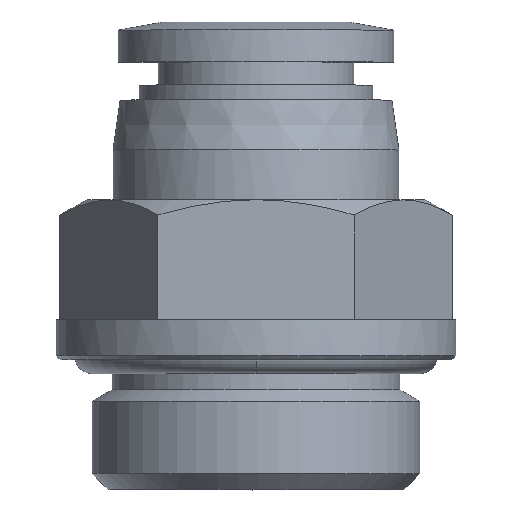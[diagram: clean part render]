
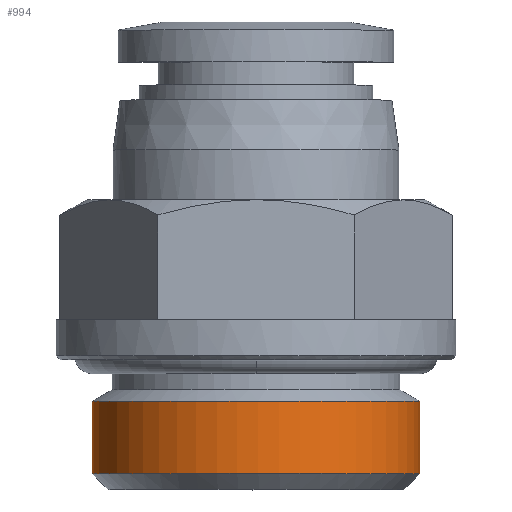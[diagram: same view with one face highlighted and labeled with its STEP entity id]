
A CAD part, top view. The second image highlights one B-rep face of the part: STEP entity #994.
In plain terms, the highlighted cylindrical face has radius 8.2 mm (diameter 16.4 mm), a partial arc.
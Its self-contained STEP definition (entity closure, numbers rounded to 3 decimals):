
#94 = CYLINDRICAL_SURFACE ( 'NONE', #719, 8.2 ) ;
#114 = LINE ( 'NONE', #1978, #1132 ) ;
#246 = CARTESIAN_POINT ( 'NONE',  ( -8.2, 0.8, 1.073 ) ) ;
#280 = VERTEX_POINT ( 'NONE', #478 ) ;
#287 = ORIENTED_EDGE ( 'NONE', *, *, #1359, .T. ) ;
#300 = CARTESIAN_POINT ( 'NONE',  ( -5.039, 0.8, 6.557 ) ) ;
#426 = CARTESIAN_POINT ( 'NONE',  ( 4.13, 4.423, 7.165 ) ) ;
#478 = CARTESIAN_POINT ( 'NONE',  ( 8.2, 4.423, 0. ) ) ;
#507 = CARTESIAN_POINT ( 'NONE',  ( 7.987, 0.8, 2.146 ) ) ;
#553 = CARTESIAN_POINT ( 'NONE',  ( 8.2, 0.8, 0. ) ) ;
#604 = DIRECTION ( 'NONE',  ( 0., 1., 0. ) ) ;
#614 = CARTESIAN_POINT ( 'NONE',  ( -8.2, 4.423, 0. ) ) ;
#650 = CARTESIAN_POINT ( 'NONE',  ( -6.557, 4.423, 5.039 ) ) ;
#666 = CARTESIAN_POINT ( 'NONE',  ( 6.557, 4.423, 5.039 ) ) ;
#719 = AXIS2_PLACEMENT_3D ( 'NONE', #1519, #2279, #1274 ) ;
#762 = VECTOR ( 'NONE', #2092, 1000. ) ;
#777 = CARTESIAN_POINT ( 'NONE',  ( -2.146, 0.8, 7.987 ) ) ;
#825 = CARTESIAN_POINT ( 'NONE',  ( -8.2, 0.8, 0. ) ) ;
#872 = ORIENTED_EDGE ( 'NONE', *, *, #1278, .F. ) ;
#887 = CARTESIAN_POINT ( 'NONE',  ( -2.146, 4.423, 7.987 ) ) ;
#934 = CARTESIAN_POINT ( 'NONE',  ( 7.987, 4.423, 2.146 ) ) ;
#958 = EDGE_CURVE ( 'NONE', #2337, #2485, #2417, .T. ) ;
#994 = ADVANCED_FACE ( 'NONE', ( #1994 ), #94, .T. ) ;
#996 = CARTESIAN_POINT ( 'NONE',  ( 8.2, 0.8, 1.073 ) ) ;
#1008 = CARTESIAN_POINT ( 'NONE',  ( 4.13, 0.8, 7.165 ) ) ;
#1120 = CARTESIAN_POINT ( 'NONE',  ( 5.039, 4.423, 6.557 ) ) ;
#1132 = VECTOR ( 'NONE', #604, 1000. ) ;
#1204 = CARTESIAN_POINT ( 'NONE',  ( 7.165, 0.8, 4.13 ) ) ;
#1225 = VERTEX_POINT ( 'NONE', #614 ) ;
#1238 = B_SPLINE_CURVE_WITH_KNOTS ( 'NONE', 3,
 ( #2079, #3068, #934, #2806, #666, #1120, #426, #2061, #1875, #3021, #887, #1598, #2835, #650, #2580, #1642, #2326, #2773 ),
 .UNSPECIFIED., .F., .F.,
 ( 4, 2, 2, 2, 2, 2, 2, 2, 4 ),
 ( 0.5, 0.563, 0.625, 0.688, 0.75, 0.813, 0.875, 0.938, 1. ),
 .UNSPECIFIED. ) ;
#1251 = CARTESIAN_POINT ( 'NONE',  ( 6.557, 0.8, 5.039 ) ) ;
#1262 = CARTESIAN_POINT ( 'NONE',  ( -6.557, 0.8, 5.039 ) ) ;
#1274 = DIRECTION ( 'NONE',  ( -1., 0., 0. ) ) ;
#1278 = EDGE_CURVE ( 'NONE', #2485, #1225, #1781, .T. ) ;
#1356 = EDGE_LOOP ( 'NONE', ( #2317, #2152, #287, #872 ) ) ;
#1359 = EDGE_CURVE ( 'NONE', #280, #1225, #1238, .T. ) ;
#1519 = CARTESIAN_POINT ( 'NONE',  ( 0., 2.611, 0. ) ) ;
#1548 = CARTESIAN_POINT ( 'NONE',  ( -8.2, 2.611, 0. ) ) ;
#1598 = CARTESIAN_POINT ( 'NONE',  ( -4.13, 4.423, 7.165 ) ) ;
#1642 = CARTESIAN_POINT ( 'NONE',  ( -7.987, 4.423, 2.146 ) ) ;
#1723 = CARTESIAN_POINT ( 'NONE',  ( -4.13, 0.8, 7.165 ) ) ;
#1736 = CARTESIAN_POINT ( 'NONE',  ( 1.073, 0.8, 8.2 ) ) ;
#1781 = LINE ( 'NONE', #1548, #762 ) ;
#1875 = CARTESIAN_POINT ( 'NONE',  ( 1.073, 4.423, 8.2 ) ) ;
#1946 = CARTESIAN_POINT ( 'NONE',  ( 2.146, 0.8, 7.987 ) ) ;
#1978 = CARTESIAN_POINT ( 'NONE',  ( 8.2, 2.611, 0. ) ) ;
#1994 = FACE_OUTER_BOUND ( 'NONE', #1356, .T. ) ;
#2061 = CARTESIAN_POINT ( 'NONE',  ( 2.146, 4.423, 7.987 ) ) ;
#2079 = CARTESIAN_POINT ( 'NONE',  ( 8.2, 4.423, 0. ) ) ;
#2092 = DIRECTION ( 'NONE',  ( 0., 1., 0. ) ) ;
#2147 = CARTESIAN_POINT ( 'NONE',  ( -8.2, 0.8, 0. ) ) ;
#2152 = ORIENTED_EDGE ( 'NONE', *, *, #2975, .T. ) ;
#2187 = CARTESIAN_POINT ( 'NONE',  ( 5.039, 0.8, 6.557 ) ) ;
#2279 = DIRECTION ( 'NONE',  ( 0., 1., 0. ) ) ;
#2317 = ORIENTED_EDGE ( 'NONE', *, *, #958, .F. ) ;
#2326 = CARTESIAN_POINT ( 'NONE',  ( -8.2, 4.423, 1.073 ) ) ;
#2337 = VERTEX_POINT ( 'NONE', #2424 ) ;
#2375 = CARTESIAN_POINT ( 'NONE',  ( -7.987, 0.8, 2.146 ) ) ;
#2417 = B_SPLINE_CURVE_WITH_KNOTS ( 'NONE', 3,
 ( #553, #996, #507, #1204, #1251, #2187, #1008, #1946, #1736, #2911, #777, #1723, #300, #1262, #2693, #2375, #246, #2147 ),
 .UNSPECIFIED., .F., .F.,
 ( 4, 2, 2, 2, 2, 2, 2, 2, 4 ),
 ( 0.5, 0.563, 0.625, 0.688, 0.75, 0.813, 0.875, 0.938, 1. ),
 .UNSPECIFIED. ) ;
#2424 = CARTESIAN_POINT ( 'NONE',  ( 8.2, 0.8, 0. ) ) ;
#2485 = VERTEX_POINT ( 'NONE', #825 ) ;
#2580 = CARTESIAN_POINT ( 'NONE',  ( -7.165, 4.423, 4.13 ) ) ;
#2693 = CARTESIAN_POINT ( 'NONE',  ( -7.165, 0.8, 4.13 ) ) ;
#2773 = CARTESIAN_POINT ( 'NONE',  ( -8.2, 4.423, 0. ) ) ;
#2806 = CARTESIAN_POINT ( 'NONE',  ( 7.165, 4.423, 4.13 ) ) ;
#2835 = CARTESIAN_POINT ( 'NONE',  ( -5.039, 4.423, 6.557 ) ) ;
#2911 = CARTESIAN_POINT ( 'NONE',  ( -1.073, 0.8, 8.2 ) ) ;
#2975 = EDGE_CURVE ( 'NONE', #2337, #280, #114, .T. ) ;
#3021 = CARTESIAN_POINT ( 'NONE',  ( -1.073, 4.423, 8.2 ) ) ;
#3068 = CARTESIAN_POINT ( 'NONE',  ( 8.2, 4.423, 1.073 ) ) ;
